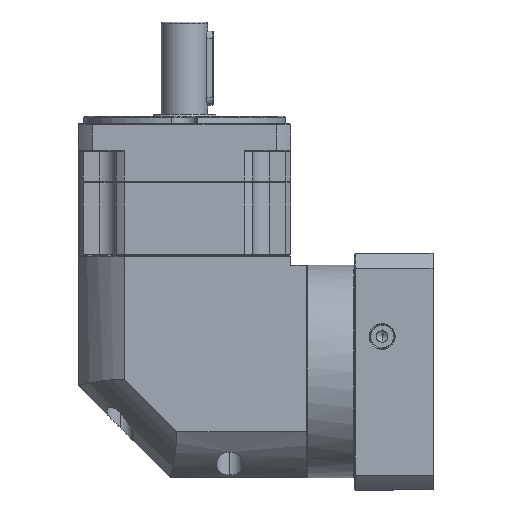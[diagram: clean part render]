
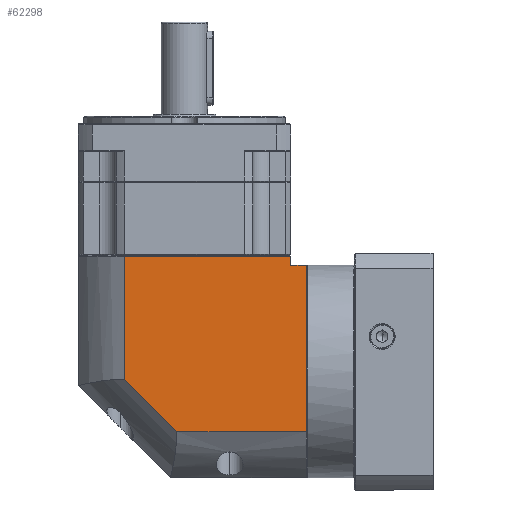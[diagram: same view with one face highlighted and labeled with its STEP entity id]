
A CAD part, left-side view. The second image highlights one B-rep face of the part: STEP entity #62298.
In plain terms, the highlighted planar face has unit normal (-1, 0, 0).
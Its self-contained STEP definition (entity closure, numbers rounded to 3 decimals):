
#8779 = CARTESIAN_POINT ( 'NONE',  ( -247.009, -10.05, 102.075 ) ) ;
#8836 = ORIENTED_EDGE ( 'NONE', *, *, #36555, .F. ) ;
#14425 = VECTOR ( 'NONE', #173865, 1000. ) ;
#16691 = CARTESIAN_POINT ( 'NONE',  ( -247.009, -99.95, 95.575 ) ) ;
#22578 = DIRECTION ( 'NONE',  ( 0., 0., -1. ) ) ;
#26013 = EDGE_CURVE ( 'NONE', #122724, #136693, #152404, .T. ) ;
#27742 = CARTESIAN_POINT ( 'NONE',  ( -247.009, 15.05, 95.575 ) ) ;
#28997 = EDGE_CURVE ( 'NONE', #118432, #31056, #121400, .T. ) ;
#30048 = ORIENTED_EDGE ( 'NONE', *, *, #107776, .F. ) ;
#31056 = VERTEX_POINT ( 'NONE', #16691 ) ;
#32417 = DIRECTION ( 'NONE',  ( 0., 1., 0. ) ) ;
#36555 = EDGE_CURVE ( 'NONE', #142342, #31056, #138517, .T. ) ;
#46365 = CARTESIAN_POINT ( 'NONE',  ( -247.009, -38.388, 0.675 ) ) ;
#48116 = DIRECTION ( 'NONE',  ( 0., 0.707, 0.707 ) ) ;
#49781 = VECTOR ( 'NONE', #22578, 1000. ) ;
#51738 = ORIENTED_EDGE ( 'NONE', *, *, #85698, .T. ) ;
#62298 = ADVANCED_FACE ( 'NONE', ( #124583 ), #97635, .F. ) ;
#65145 = VERTEX_POINT ( 'NONE', #108582 ) ;
#65600 = CARTESIAN_POINT ( 'NONE',  ( -247.009, -108.35, 90.575 ) ) ;
#66692 = LINE ( 'NONE', #136892, #129548 ) ;
#68862 = EDGE_CURVE ( 'NONE', #77314, #65145, #153856, .T. ) ;
#69926 = CARTESIAN_POINT ( 'NONE',  ( -247.009, -108.35, 0.675 ) ) ;
#71203 = DIRECTION ( 'NONE',  ( 1., 0., 0. ) ) ;
#72779 = VECTOR ( 'NONE', #32417, 1000. ) ;
#73767 = CARTESIAN_POINT ( 'NONE',  ( -247.009, -10.05, 95.575 ) ) ;
#77314 = VERTEX_POINT ( 'NONE', #85415 ) ;
#77773 = CARTESIAN_POINT ( 'NONE',  ( -247.009, -108.35, 102.075 ) ) ;
#82446 = LINE ( 'NONE', #8779, #149433 ) ;
#82693 = VECTOR ( 'NONE', #48116, 1000. ) ;
#85415 = CARTESIAN_POINT ( 'NONE',  ( -247.009, -38.388, 0.675 ) ) ;
#85698 = EDGE_CURVE ( 'NONE', #122724, #118432, #108408, .T. ) ;
#97635 = PLANE ( 'NONE',  #137692 ) ;
#102938 = VECTOR ( 'NONE', #148470, 1000. ) ;
#107776 = EDGE_CURVE ( 'NONE', #65145, #142342, #82446, .T. ) ;
#108408 = LINE ( 'NONE', #110960, #72779 ) ;
#108582 = CARTESIAN_POINT ( 'NONE',  ( -247.009, -10.05, 29.013 ) ) ;
#110960 = CARTESIAN_POINT ( 'NONE',  ( -247.009, -99.95, 90.575 ) ) ;
#115502 = DIRECTION ( 'NONE',  ( 0., 0., 1. ) ) ;
#118432 = VERTEX_POINT ( 'NONE', #120474 ) ;
#120474 = CARTESIAN_POINT ( 'NONE',  ( -247.009, -99.95, 90.575 ) ) ;
#121400 = LINE ( 'NONE', #146379, #14425 ) ;
#122724 = VERTEX_POINT ( 'NONE', #65600 ) ;
#123098 = ORIENTED_EDGE ( 'NONE', *, *, #28997, .T. ) ;
#124583 = FACE_OUTER_BOUND ( 'NONE', #138171, .T. ) ;
#129548 = VECTOR ( 'NONE', #150342, 1000. ) ;
#134512 = ORIENTED_EDGE ( 'NONE', *, *, #68862, .F. ) ;
#136693 = VERTEX_POINT ( 'NONE', #69926 ) ;
#136892 = CARTESIAN_POINT ( 'NONE',  ( -247.009, 15.05, 0.675 ) ) ;
#137692 = AXIS2_PLACEMENT_3D ( 'NONE', #151401, #71203, #164950 ) ;
#138171 = EDGE_LOOP ( 'NONE', ( #30048, #134512, #170477, #159177, #51738, #123098, #8836 ) ) ;
#138517 = LINE ( 'NONE', #27742, #102938 ) ;
#142342 = VERTEX_POINT ( 'NONE', #73767 ) ;
#146379 = CARTESIAN_POINT ( 'NONE',  ( -247.009, -99.95, -24.425 ) ) ;
#148470 = DIRECTION ( 'NONE',  ( 0., -1., 0. ) ) ;
#149433 = VECTOR ( 'NONE', #115502, 1000. ) ;
#150342 = DIRECTION ( 'NONE',  ( 0., 1., 0. ) ) ;
#151401 = CARTESIAN_POINT ( 'NONE',  ( -247.009, 15.05, 102.075 ) ) ;
#152404 = LINE ( 'NONE', #77773, #49781 ) ;
#153856 = LINE ( 'NONE', #46365, #82693 ) ;
#159177 = ORIENTED_EDGE ( 'NONE', *, *, #26013, .F. ) ;
#164950 = DIRECTION ( 'NONE',  ( 0., 1., 0. ) ) ;
#170477 = ORIENTED_EDGE ( 'NONE', *, *, #173380, .F. ) ;
#173380 = EDGE_CURVE ( 'NONE', #136693, #77314, #66692, .T. ) ;
#173865 = DIRECTION ( 'NONE',  ( 0., 0., 1. ) ) ;
